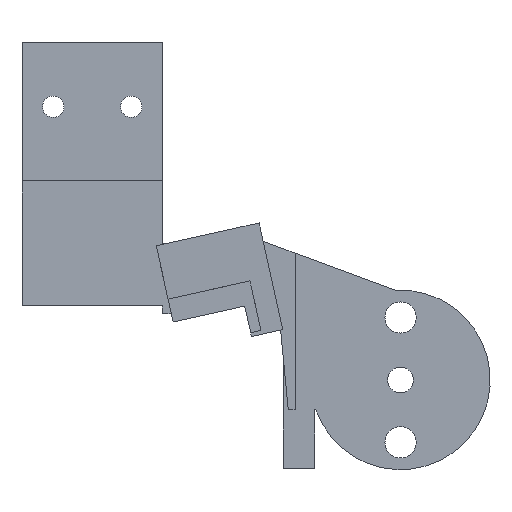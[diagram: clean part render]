
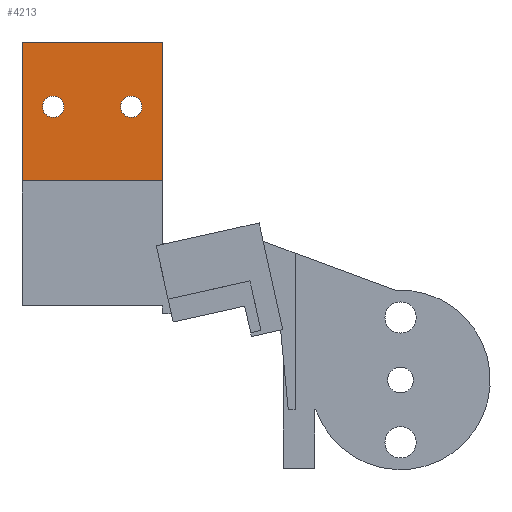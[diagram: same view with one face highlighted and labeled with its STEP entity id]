
A CAD part, front view. The second image highlights one B-rep face of the part: STEP entity #4213.
In plain terms, the highlighted planar face has unit normal (0, -1, 0).
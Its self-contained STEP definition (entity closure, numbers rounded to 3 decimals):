
#817 = PLANE('',#818);
#818 = AXIS2_PLACEMENT_3D('',#819,#820,#821);
#819 = CARTESIAN_POINT('',(-38.,20.2,-182.));
#820 = DIRECTION('',(1.,0.,0.));
#821 = DIRECTION('',(0.,0.,1.));
#845 = PLANE('',#846);
#846 = AXIS2_PLACEMENT_3D('',#847,#848,#849);
#847 = CARTESIAN_POINT('',(-38.,20.2,-150.));
#848 = DIRECTION('',(0.,0.,1.));
#849 = DIRECTION('',(1.,0.,0.));
#873 = PLANE('',#874);
#874 = AXIS2_PLACEMENT_3D('',#875,#876,#877);
#875 = CARTESIAN_POINT('',(-2.,20.2,-182.));
#876 = DIRECTION('',(1.,0.,0.));
#877 = DIRECTION('',(0.,0.,1.));
#1073 = PLANE('',#1074);
#1074 = AXIS2_PLACEMENT_3D('',#1075,#1076,#1077);
#1075 = CARTESIAN_POINT('',(-38.,34.2,-114.5));
#1076 = DIRECTION('',(0.,0.,1.));
#1077 = DIRECTION('',(1.,0.,0.));
#2697 = VERTEX_POINT('',#2698);
#2698 = CARTESIAN_POINT('',(-2.,34.2,-150.));
#2723 = VERTEX_POINT('',#2724);
#2724 = CARTESIAN_POINT('',(-2.,34.2,-114.5));
#2745 = EDGE_CURVE('',#2697,#2723,#2746,.T.);
#2746 = SURFACE_CURVE('',#2747,(#2751,#2758),.PCURVE_S1.);
#2747 = LINE('',#2748,#2749);
#2748 = CARTESIAN_POINT('',(-2.,34.2,-150.01));
#2749 = VECTOR('',#2750,1.);
#2750 = DIRECTION('',(0.,0.,1.));
#2751 = PCURVE('',#873,#2752);
#2752 = DEFINITIONAL_REPRESENTATION('',(#2753),#2757);
#2753 = LINE('',#2754,#2755);
#2754 = CARTESIAN_POINT('',(31.99,-14.));
#2755 = VECTOR('',#2756,1.);
#2756 = DIRECTION('',(1.,0.));
#2757 = ( GEOMETRIC_REPRESENTATION_CONTEXT(2) 
PARAMETRIC_REPRESENTATION_CONTEXT() REPRESENTATION_CONTEXT('2D SPACE',''
  ) );
#2758 = PCURVE('',#2759,#2764);
#2759 = PLANE('',#2760);
#2760 = AXIS2_PLACEMENT_3D('',#2761,#2762,#2763);
#2761 = CARTESIAN_POINT('',(-38.,34.2,-150.01));
#2762 = DIRECTION('',(0.,1.,0.));
#2763 = DIRECTION('',(0.,0.,1.));
#2764 = DEFINITIONAL_REPRESENTATION('',(#2765),#2769);
#2765 = LINE('',#2766,#2767);
#2766 = CARTESIAN_POINT('',(0.,36.));
#2767 = VECTOR('',#2768,1.);
#2768 = DIRECTION('',(1.,0.));
#2769 = ( GEOMETRIC_REPRESENTATION_CONTEXT(2) 
PARAMETRIC_REPRESENTATION_CONTEXT() REPRESENTATION_CONTEXT('2D SPACE',''
  ) );
#2775 = VERTEX_POINT('',#2776);
#2776 = CARTESIAN_POINT('',(-38.,34.2,-150.));
#2799 = EDGE_CURVE('',#2697,#2775,#2800,.T.);
#2800 = SURFACE_CURVE('',#2801,(#2805,#2811),.PCURVE_S1.);
#2801 = LINE('',#2802,#2803);
#2802 = CARTESIAN_POINT('',(-38.,34.2,-150.));
#2803 = VECTOR('',#2804,1.);
#2804 = DIRECTION('',(-1.,0.,0.));
#2805 = PCURVE('',#845,#2806);
#2806 = DEFINITIONAL_REPRESENTATION('',(#2807),#2810);
#2807 = B_SPLINE_CURVE_WITH_KNOTS('',1,(#2808,#2809),.UNSPECIFIED.,.F.,
  .F.,(2,2),(-36.,0.),.PIECEWISE_BEZIER_KNOTS.);
#2808 = CARTESIAN_POINT('',(36.,14.));
#2809 = CARTESIAN_POINT('',(0.,14.));
#2810 = ( GEOMETRIC_REPRESENTATION_CONTEXT(2) 
PARAMETRIC_REPRESENTATION_CONTEXT() REPRESENTATION_CONTEXT('2D SPACE',''
  ) );
#2811 = PCURVE('',#2759,#2812);
#2812 = DEFINITIONAL_REPRESENTATION('',(#2813),#2816);
#2813 = B_SPLINE_CURVE_WITH_KNOTS('',1,(#2814,#2815),.UNSPECIFIED.,.F.,
  .F.,(2,2),(-36.,0.),.PIECEWISE_BEZIER_KNOTS.);
#2814 = CARTESIAN_POINT('',(0.01,36.));
#2815 = CARTESIAN_POINT('',(0.01,0.));
#2816 = ( GEOMETRIC_REPRESENTATION_CONTEXT(2) 
PARAMETRIC_REPRESENTATION_CONTEXT() REPRESENTATION_CONTEXT('2D SPACE',''
  ) );
#2826 = VERTEX_POINT('',#2827);
#2827 = CARTESIAN_POINT('',(-38.,34.2,-114.5));
#2848 = EDGE_CURVE('',#2775,#2826,#2849,.T.);
#2849 = SURFACE_CURVE('',#2850,(#2854,#2861),.PCURVE_S1.);
#2850 = LINE('',#2851,#2852);
#2851 = CARTESIAN_POINT('',(-38.,34.2,-150.01));
#2852 = VECTOR('',#2853,1.);
#2853 = DIRECTION('',(0.,0.,1.));
#2854 = PCURVE('',#817,#2855);
#2855 = DEFINITIONAL_REPRESENTATION('',(#2856),#2860);
#2856 = LINE('',#2857,#2858);
#2857 = CARTESIAN_POINT('',(31.99,-14.));
#2858 = VECTOR('',#2859,1.);
#2859 = DIRECTION('',(1.,0.));
#2860 = ( GEOMETRIC_REPRESENTATION_CONTEXT(2) 
PARAMETRIC_REPRESENTATION_CONTEXT() REPRESENTATION_CONTEXT('2D SPACE',''
  ) );
#2861 = PCURVE('',#2759,#2862);
#2862 = DEFINITIONAL_REPRESENTATION('',(#2863),#2867);
#2863 = LINE('',#2864,#2865);
#2864 = CARTESIAN_POINT('',(0.,0.));
#2865 = VECTOR('',#2866,1.);
#2866 = DIRECTION('',(1.,0.));
#2867 = ( GEOMETRIC_REPRESENTATION_CONTEXT(2) 
PARAMETRIC_REPRESENTATION_CONTEXT() REPRESENTATION_CONTEXT('2D SPACE',''
  ) );
#2873 = EDGE_CURVE('',#2826,#2723,#2874,.T.);
#2874 = SURFACE_CURVE('',#2875,(#2879,#2886),.PCURVE_S1.);
#2875 = LINE('',#2876,#2877);
#2876 = CARTESIAN_POINT('',(-38.,34.2,-114.5));
#2877 = VECTOR('',#2878,1.);
#2878 = DIRECTION('',(1.,0.,0.));
#2879 = PCURVE('',#1073,#2880);
#2880 = DEFINITIONAL_REPRESENTATION('',(#2881),#2885);
#2881 = LINE('',#2882,#2883);
#2882 = CARTESIAN_POINT('',(0.,0.));
#2883 = VECTOR('',#2884,1.);
#2884 = DIRECTION('',(1.,0.));
#2885 = ( GEOMETRIC_REPRESENTATION_CONTEXT(2) 
PARAMETRIC_REPRESENTATION_CONTEXT() REPRESENTATION_CONTEXT('2D SPACE',''
  ) );
#2886 = PCURVE('',#2759,#2887);
#2887 = DEFINITIONAL_REPRESENTATION('',(#2888),#2892);
#2888 = LINE('',#2889,#2890);
#2889 = CARTESIAN_POINT('',(35.51,0.));
#2890 = VECTOR('',#2891,1.);
#2891 = DIRECTION('',(0.,1.));
#2892 = ( GEOMETRIC_REPRESENTATION_CONTEXT(2) 
PARAMETRIC_REPRESENTATION_CONTEXT() REPRESENTATION_CONTEXT('2D SPACE',''
  ) );
#4213 = ADVANCED_FACE('',(#4214,#4220,#4255),#2759,.F.);
#4214 = FACE_BOUND('',#4215,.F.);
#4215 = EDGE_LOOP('',(#4216,#4217,#4218,#4219));
#4216 = ORIENTED_EDGE('',*,*,#2745,.F.);
#4217 = ORIENTED_EDGE('',*,*,#2799,.T.);
#4218 = ORIENTED_EDGE('',*,*,#2848,.T.);
#4219 = ORIENTED_EDGE('',*,*,#2873,.T.);
#4220 = FACE_BOUND('',#4221,.F.);
#4221 = EDGE_LOOP('',(#4222));
#4222 = ORIENTED_EDGE('',*,*,#4223,.T.);
#4223 = EDGE_CURVE('',#4224,#4224,#4226,.T.);
#4224 = VERTEX_POINT('',#4225);
#4225 = CARTESIAN_POINT('',(-27.25,34.2,-131.));
#4226 = SURFACE_CURVE('',#4227,(#4232,#4243),.PCURVE_S1.);
#4227 = CIRCLE('',#4228,2.75);
#4228 = AXIS2_PLACEMENT_3D('',#4229,#4230,#4231);
#4229 = CARTESIAN_POINT('',(-30.,34.2,-131.));
#4230 = DIRECTION('',(0.,-1.,0.));
#4231 = DIRECTION('',(1.,0.,0.));
#4232 = PCURVE('',#2759,#4233);
#4233 = DEFINITIONAL_REPRESENTATION('',(#4234),#4242);
#4234 = ( BOUNDED_CURVE() B_SPLINE_CURVE(2,(#4235,#4236,#4237,#4238,
#4239,#4240,#4241),.UNSPECIFIED.,.T.,.F.) B_SPLINE_CURVE_WITH_KNOTS((1,2
    ,2,2,2,1),(-2.094,0.,2.094,4.189,
6.283,8.378),.UNSPECIFIED.) CURVE() 
GEOMETRIC_REPRESENTATION_ITEM() RATIONAL_B_SPLINE_CURVE((1.,0.5,1.,0.5,
1.,0.5,1.)) REPRESENTATION_ITEM('') );
#4235 = CARTESIAN_POINT('',(19.01,10.75));
#4236 = CARTESIAN_POINT('',(23.773,10.75));
#4237 = CARTESIAN_POINT('',(21.392,6.625));
#4238 = CARTESIAN_POINT('',(19.01,2.5));
#4239 = CARTESIAN_POINT('',(16.628,6.625));
#4240 = CARTESIAN_POINT('',(14.247,10.75));
#4241 = CARTESIAN_POINT('',(19.01,10.75));
#4242 = ( GEOMETRIC_REPRESENTATION_CONTEXT(2) 
PARAMETRIC_REPRESENTATION_CONTEXT() REPRESENTATION_CONTEXT('2D SPACE',''
  ) );
#4243 = PCURVE('',#4244,#4249);
#4244 = CYLINDRICAL_SURFACE('',#4245,2.75);
#4245 = AXIS2_PLACEMENT_3D('',#4246,#4247,#4248);
#4246 = CARTESIAN_POINT('',(-30.,33.2,-131.));
#4247 = DIRECTION('',(0.,-1.,0.));
#4248 = DIRECTION('',(1.,0.,0.));
#4249 = DEFINITIONAL_REPRESENTATION('',(#4250),#4254);
#4250 = LINE('',#4251,#4252);
#4251 = CARTESIAN_POINT('',(-6.283,-1.));
#4252 = VECTOR('',#4253,1.);
#4253 = DIRECTION('',(1.,-0.));
#4254 = ( GEOMETRIC_REPRESENTATION_CONTEXT(2) 
PARAMETRIC_REPRESENTATION_CONTEXT() REPRESENTATION_CONTEXT('2D SPACE',''
  ) );
#4255 = FACE_BOUND('',#4256,.F.);
#4256 = EDGE_LOOP('',(#4257));
#4257 = ORIENTED_EDGE('',*,*,#4258,.T.);
#4258 = EDGE_CURVE('',#4259,#4259,#4261,.T.);
#4259 = VERTEX_POINT('',#4260);
#4260 = CARTESIAN_POINT('',(-7.25,34.2,-131.));
#4261 = SURFACE_CURVE('',#4262,(#4267,#4278),.PCURVE_S1.);
#4262 = CIRCLE('',#4263,2.75);
#4263 = AXIS2_PLACEMENT_3D('',#4264,#4265,#4266);
#4264 = CARTESIAN_POINT('',(-10.,34.2,-131.));
#4265 = DIRECTION('',(0.,-1.,0.));
#4266 = DIRECTION('',(1.,0.,0.));
#4267 = PCURVE('',#2759,#4268);
#4268 = DEFINITIONAL_REPRESENTATION('',(#4269),#4277);
#4269 = ( BOUNDED_CURVE() B_SPLINE_CURVE(2,(#4270,#4271,#4272,#4273,
#4274,#4275,#4276),.UNSPECIFIED.,.T.,.F.) B_SPLINE_CURVE_WITH_KNOTS((1,2
    ,2,2,2,1),(-2.094,0.,2.094,4.189,
6.283,8.378),.UNSPECIFIED.) CURVE() 
GEOMETRIC_REPRESENTATION_ITEM() RATIONAL_B_SPLINE_CURVE((1.,0.5,1.,0.5,
1.,0.5,1.)) REPRESENTATION_ITEM('') );
#4270 = CARTESIAN_POINT('',(19.01,30.75));
#4271 = CARTESIAN_POINT('',(23.773,30.75));
#4272 = CARTESIAN_POINT('',(21.392,26.625));
#4273 = CARTESIAN_POINT('',(19.01,22.5));
#4274 = CARTESIAN_POINT('',(16.628,26.625));
#4275 = CARTESIAN_POINT('',(14.247,30.75));
#4276 = CARTESIAN_POINT('',(19.01,30.75));
#4277 = ( GEOMETRIC_REPRESENTATION_CONTEXT(2) 
PARAMETRIC_REPRESENTATION_CONTEXT() REPRESENTATION_CONTEXT('2D SPACE',''
  ) );
#4278 = PCURVE('',#4279,#4284);
#4279 = CYLINDRICAL_SURFACE('',#4280,2.75);
#4280 = AXIS2_PLACEMENT_3D('',#4281,#4282,#4283);
#4281 = CARTESIAN_POINT('',(-10.,33.2,-131.));
#4282 = DIRECTION('',(0.,-1.,0.));
#4283 = DIRECTION('',(1.,0.,0.));
#4284 = DEFINITIONAL_REPRESENTATION('',(#4285),#4289);
#4285 = LINE('',#4286,#4287);
#4286 = CARTESIAN_POINT('',(-6.283,-1.));
#4287 = VECTOR('',#4288,1.);
#4288 = DIRECTION('',(1.,-0.));
#4289 = ( GEOMETRIC_REPRESENTATION_CONTEXT(2) 
PARAMETRIC_REPRESENTATION_CONTEXT() REPRESENTATION_CONTEXT('2D SPACE',''
  ) );
